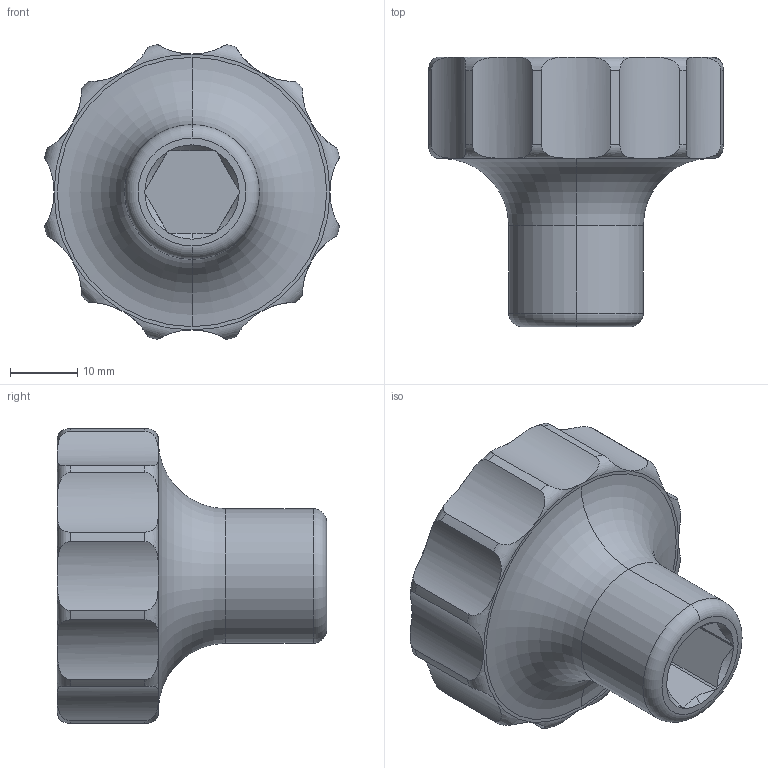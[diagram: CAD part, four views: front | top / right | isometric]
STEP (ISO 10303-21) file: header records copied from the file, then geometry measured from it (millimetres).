
FILE_DESCRIPTION (( 'STEP AP214' ), '1' );
FILE_NAME ('HC_ADJ_TOOL.STEP', '2026-03-20T20:11:06', ( '' ), ( '' ), 'SwSTEP 2.0', 'SolidWorks 2023', '' );
FILE_SCHEMA (( 'AUTOMOTIVE_DESIGN' ));
Length unit declared in the file: millimetre
Products named in the file (1): HC_ADJ_TOOL
Bounding box: 43.82 x 40 x 43.82 mm (x, y, z)
Volume: 29454.8 mm3; surface area: 6663.3 mm2
Topology: 1 solids, 1 shells, 80 faces, 186 edges, 110 vertices
Faces by surface type: cylinder 35, torus 28, plane 10, cone 7
Entity records: 3141 total; most frequent: CARTESIAN_POINT 1360, ORIENTED_EDGE 372, DIRECTION 368, EDGE_CURVE 186, AXIS2_PLACEMENT_3D 160, VERTEX_POINT 110, EDGE_LOOP 82, FACE_OUTER_BOUND 80
